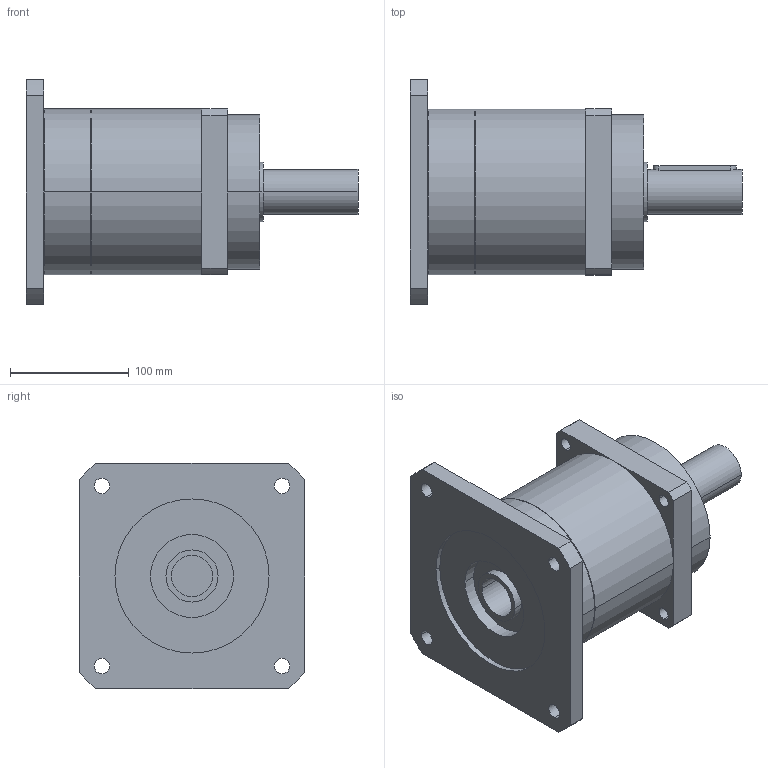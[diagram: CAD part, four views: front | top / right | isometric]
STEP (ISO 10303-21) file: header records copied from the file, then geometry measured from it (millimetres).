
FILE_DESCRIPTION(('CoCreate Modeling STEP Export'),'2;1');
FILE_NAME('GPR150_ig-3-4-5-7_38_B5_35_P13.stp','2014-08-19T16:43:19',(''),(''),'CoCreate Modeling STEP processor for AP214 (Solid Model)','CoCreate Modeling 16.00C 25-Feb-2009 (C) Parametric Technology GmbH','');
FILE_SCHEMA(('AUTOMOTIVE_DESIGN { 1 0 10303 214 1 1 1 1 }'));
Length unit declared in the file: millimetre
Products named in the file (2): GPR150_ig-3-4-5-7_38_B5_35_P13
Assembly tree (1 placements, depth 2):
  GPR150_ig-3-4-5-7_38_B5_35_P13
    GPR150_ig-3-4-5-7_38_B5_35_P13
Bounding box: 280 x 190 x 190 mm (x, y, z)
Volume: 3290789.8 mm3; surface area: 200969.7 mm2
Topology: 1 solids, 1 shells, 78 faces, 214 edges, 146 vertices
Faces by surface type: cylinder 46, plane 26, cone 6
Entity records: 2260 total; most frequent: ORIENTED_EDGE 424, CARTESIAN_POINT 421, DIRECTION 320, EDGE_CURVE 212, VERTEX_POINT 146, AXIS2_PLACEMENT_3D 117, EDGE_LOOP 104, VECTOR 86
